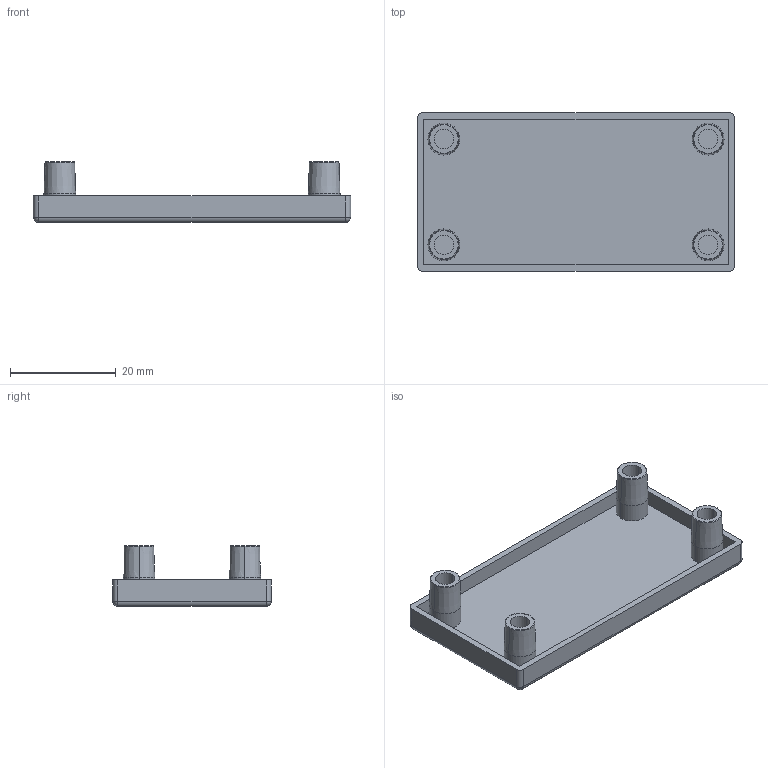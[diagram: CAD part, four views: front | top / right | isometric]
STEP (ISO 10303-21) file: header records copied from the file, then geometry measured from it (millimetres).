
FILE_DESCRIPTION (( 'STEP AP203' ), '1' );
FILE_NAME ('DEC3060.STEP', '2022-06-24T01:35:17', ( '' ), ( '' ), 'SwSTEP 2.0', 'SolidWorks 2017', '' );
FILE_SCHEMA (( 'CONFIG_CONTROL_DESIGN' ));
Length unit declared in the file: millimetre
Products named in the file (1): DEC3060
Bounding box: 60 x 30 x 11.5 mm (x, y, z)
Volume: 4809.9 mm3; surface area: 6049.7 mm2
Topology: 1 solids, 1 shells, 63 faces, 132 edges, 76 vertices
Faces by surface type: cylinder 24, plane 19, torus 8, cone 8, sphere 4
Entity records: 1727 total; most frequent: DIRECTION 328, CARTESIAN_POINT 268, ORIENTED_EDGE 256, AXIS2_PLACEMENT_3D 136, EDGE_CURVE 128, VERTEX_POINT 76, CIRCLE 72, EDGE_LOOP 72
